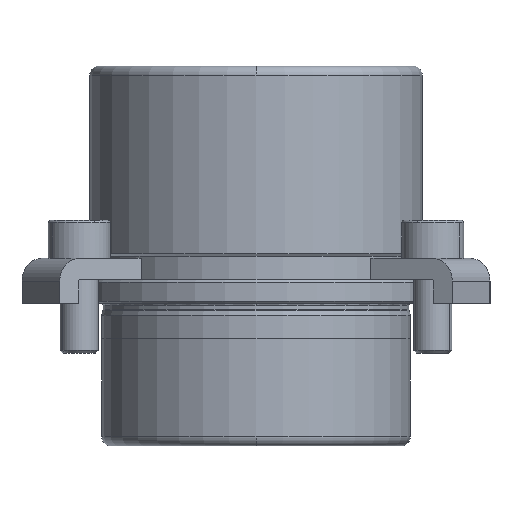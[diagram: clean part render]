
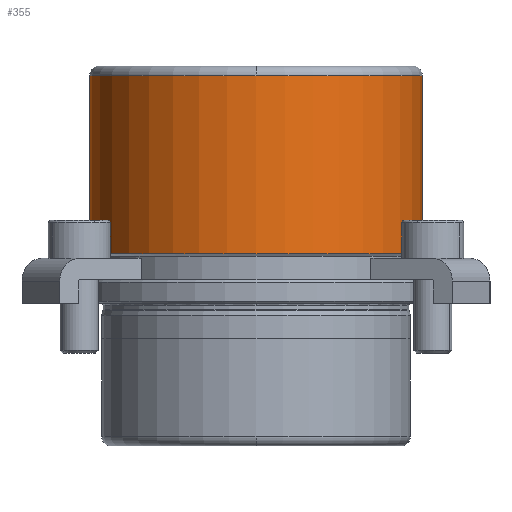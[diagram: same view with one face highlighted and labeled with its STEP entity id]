
A CAD part, front view. The second image highlights one B-rep face of the part: STEP entity #355.
In plain terms, the highlighted cylindrical face has radius 35 mm (diameter 70 mm), a partial arc.
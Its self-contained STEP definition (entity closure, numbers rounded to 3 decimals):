
#269=CARTESIAN_POINT('',(0.0,-35.,48.0));
#270=VERTEX_POINT('',#269);
#296=CARTESIAN_POINT('',(-35.0,0.,48.0));
#297=VERTEX_POINT('',#296);
#305=CARTESIAN_POINT('',(0.0,0.,48.0));
#306=DIRECTION('',(0.0,0.0,1.0));
#307=DIRECTION('',(1.0,0.0,0.0));
#308=AXIS2_PLACEMENT_3D('',#305,#306,#307);
#309=CIRCLE('',#308,35.0);
#310=EDGE_CURVE('',#297,#270,#309,.T.);
#315=CARTESIAN_POINT('',(0.0,0.,29.25));
#316=DIRECTION('',(0.0,0.,1.0));
#317=DIRECTION('',(1.0,0.0,0.0));
#318=AXIS2_PLACEMENT_3D('',#315,#316,#317);
#319=CYLINDRICAL_SURFACE('',#318,35.0);
#320=CARTESIAN_POINT('',(35.0,0.,48.0));
#321=VERTEX_POINT('',#320);
#322=CARTESIAN_POINT('',(35.0,0.,10.5));
#323=VERTEX_POINT('',#322);
#324=CARTESIAN_POINT('',(35.0,0.,48.0));
#325=DIRECTION('',(0.0,0.0,-1.0));
#326=VECTOR('',#325,37.5);
#327=LINE('',#324,#326);
#328=EDGE_CURVE('',#321,#323,#327,.T.);
#329=ORIENTED_EDGE('',*,*,#328,.F.);
#330=CARTESIAN_POINT('',(0.0,0.,48.0));
#331=DIRECTION('',(0.0,0.0,1.0));
#332=DIRECTION('',(1.0,0.0,0.0));
#333=AXIS2_PLACEMENT_3D('',#330,#331,#332);
#334=CIRCLE('',#333,35.0);
#335=EDGE_CURVE('',#270,#321,#334,.T.);
#336=ORIENTED_EDGE('',*,*,#335,.F.);
#337=ORIENTED_EDGE('',*,*,#310,.F.);
#338=CARTESIAN_POINT('',(-35.0,0.,10.5));
#339=VERTEX_POINT('',#338);
#340=CARTESIAN_POINT('',(-35.0,0.,48.0));
#341=DIRECTION('',(0.0,0.0,-1.0));
#342=VECTOR('',#341,37.5);
#343=LINE('',#340,#342);
#344=EDGE_CURVE('',#297,#339,#343,.T.);
#345=ORIENTED_EDGE('',*,*,#344,.T.);
#346=CARTESIAN_POINT('',(0.0,0.,10.5));
#347=DIRECTION('',(0.0,0.0,1.0));
#348=DIRECTION('',(1.0,0.0,0.0));
#349=AXIS2_PLACEMENT_3D('',#346,#347,#348);
#350=CIRCLE('',#349,35.0);
#351=EDGE_CURVE('',#339,#323,#350,.T.);
#352=ORIENTED_EDGE('',*,*,#351,.T.);
#353=EDGE_LOOP('',(#329,#336,#337,#345,#352));
#354=FACE_OUTER_BOUND('',#353,.T.);
#355=ADVANCED_FACE('',(#354),#319,.T.);
